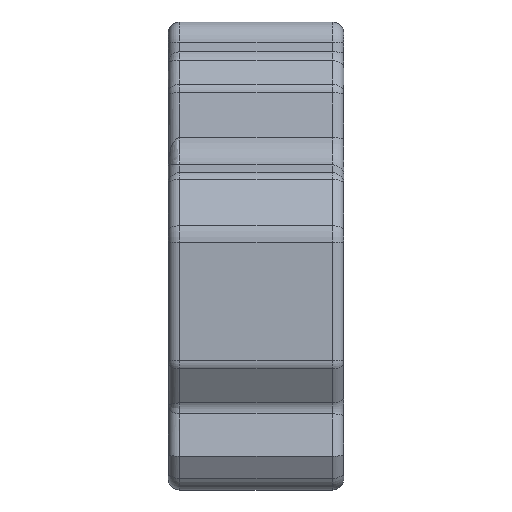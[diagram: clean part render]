
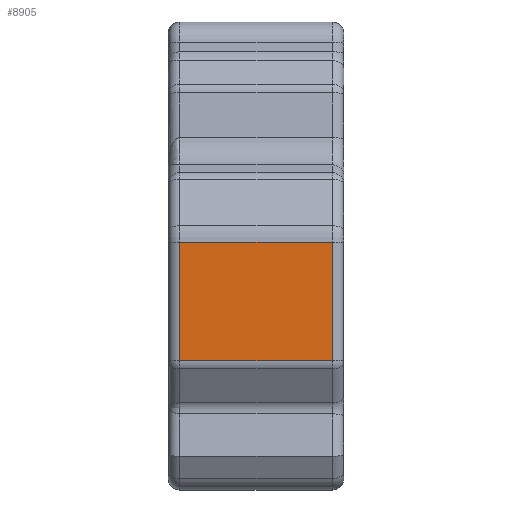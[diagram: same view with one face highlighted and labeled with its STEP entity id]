
A CAD part, left-side view. The second image highlights one B-rep face of the part: STEP entity #8905.
In plain terms, the highlighted planar face has unit normal (-1, 0, 0).
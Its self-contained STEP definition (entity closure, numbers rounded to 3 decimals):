
#239 = VECTOR ( 'NONE', #2836, 1000. ) ;
#1820 = CARTESIAN_POINT ( 'NONE',  ( -150., 28., -58.677 ) ) ;
#2692 = AXIS2_PLACEMENT_3D ( 'NONE', #3005, #11480, #6616 ) ;
#2773 = LINE ( 'NONE', #1820, #239 ) ;
#2836 = DIRECTION ( 'NONE',  ( 0., 0., -1. ) ) ;
#2877 = EDGE_CURVE ( 'NONE', #9309, #10804, #3234, .T. ) ;
#3005 = CARTESIAN_POINT ( 'NONE',  ( -150., 30., 0. ) ) ;
#3089 = VECTOR ( 'NONE', #10030, 1000. ) ;
#3234 = LINE ( 'NONE', #5132, #6229 ) ;
#4730 = EDGE_CURVE ( 'NONE', #10804, #6188, #2773, .T. ) ;
#5132 = CARTESIAN_POINT ( 'NONE',  ( -150., 28., -37.657 ) ) ;
#5404 = VERTEX_POINT ( 'NONE', #8354 ) ;
#5482 = CARTESIAN_POINT ( 'NONE',  ( -150., 2., 0. ) ) ;
#6095 = ORIENTED_EDGE ( 'NONE', *, *, #8674, .T. ) ;
#6188 = VERTEX_POINT ( 'NONE', #10352 ) ;
#6229 = VECTOR ( 'NONE', #10121, 1000. ) ;
#6616 = DIRECTION ( 'NONE',  ( 0., 0., -1. ) ) ;
#7496 = LINE ( 'NONE', #5482, #9203 ) ;
#8354 = CARTESIAN_POINT ( 'NONE',  ( -150., 2., -57.924 ) ) ;
#8483 = ORIENTED_EDGE ( 'NONE', *, *, #2877, .T. ) ;
#8625 = ORIENTED_EDGE ( 'NONE', *, *, #9824, .T. ) ;
#8637 = PLANE ( 'NONE',  #2692 ) ;
#8674 = EDGE_CURVE ( 'NONE', #6188, #5404, #10860, .T. ) ;
#8905 = ADVANCED_FACE ( 'NONE', ( #11406 ), #8637, .F. ) ;
#8934 = CARTESIAN_POINT ( 'NONE',  ( -150., 28., -37.657 ) ) ;
#8953 = CARTESIAN_POINT ( 'NONE',  ( -150., 0., -57.924 ) ) ;
#9203 = VECTOR ( 'NONE', #11352, 1000. ) ;
#9309 = VERTEX_POINT ( 'NONE', #11652 ) ;
#9824 = EDGE_CURVE ( 'NONE', #5404, #9309, #7496, .T. ) ;
#10030 = DIRECTION ( 'NONE',  ( 0., -1., 0. ) ) ;
#10121 = DIRECTION ( 'NONE',  ( 0., 1., 0. ) ) ;
#10352 = CARTESIAN_POINT ( 'NONE',  ( -150., 28., -57.924 ) ) ;
#10804 = VERTEX_POINT ( 'NONE', #8934 ) ;
#10860 = LINE ( 'NONE', #8953, #3089 ) ;
#11352 = DIRECTION ( 'NONE',  ( 0., 0., 1. ) ) ;
#11406 = FACE_OUTER_BOUND ( 'NONE', #11565, .T. ) ;
#11480 = DIRECTION ( 'NONE',  ( 1., 0., 0. ) ) ;
#11565 = EDGE_LOOP ( 'NONE', ( #6095, #8625, #8483, #11575 ) ) ;
#11575 = ORIENTED_EDGE ( 'NONE', *, *, #4730, .T. ) ;
#11652 = CARTESIAN_POINT ( 'NONE',  ( -150., 2., -37.657 ) ) ;
